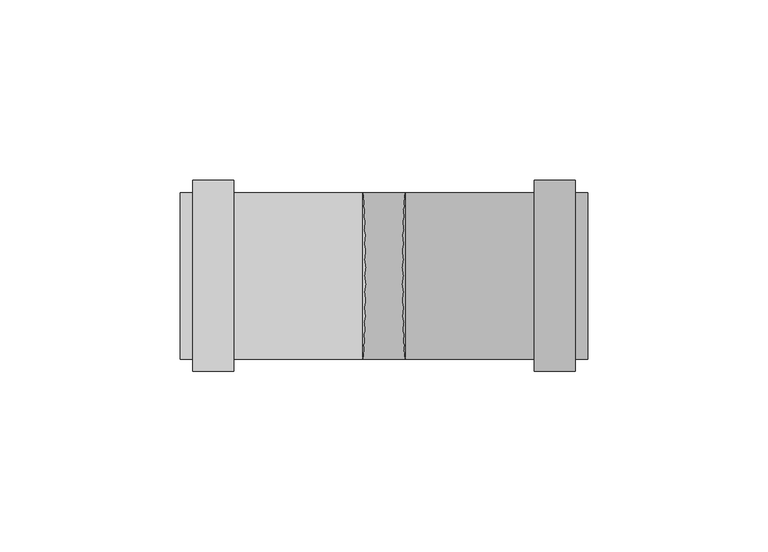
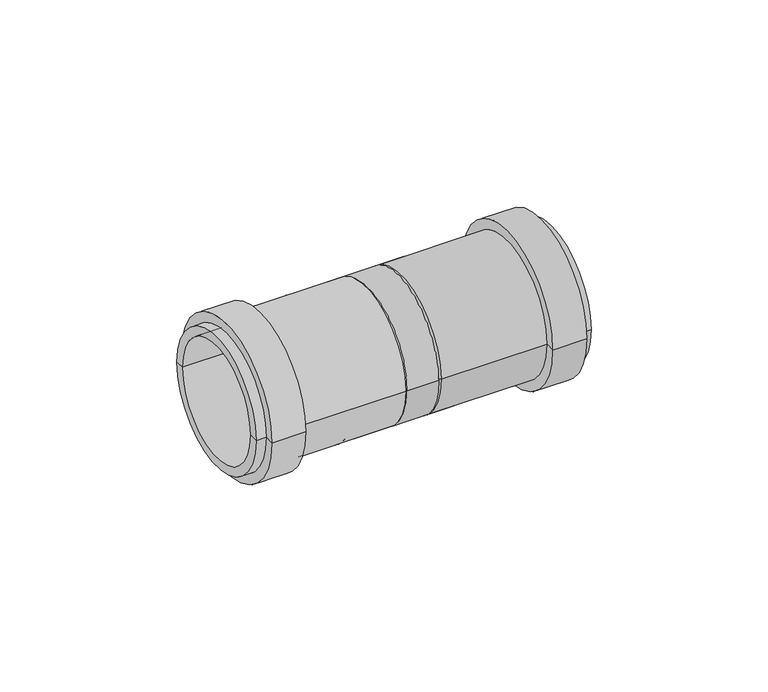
"""IFC4 building model written with IfcOpenShell, lengths in millimetres: pipe fitting geometry, pf_HTU : pf_HTU."""

from ifc_helpers import new_model, si_unit, point, frame, origin, origin_2d, place, context, project, spatial, polyline, circle_curve, trimmed, segment, composite_curve, outline, extrude, source, transform, mapped, element, save
from ifc_brep_helpers import plane_surface, cylinder_surface, revolved_surface, advanced_brep


def pipe_fitting_059f0d56(model_context):
    return source(origin(), model_context, "Body", "SolidModel", [
        advanced_brep(
        [(6.5, -20.0, 0.0), (6.5, 20.0, 0.0), (10.9, 23.1, 0.0), (10.9, -23.1, 0.0), (6.5, 0.0, 0.0), (61.5, -23.1, 0.0), (61.5, 23.1, 0.0), (61.5, 20.0, 0.0), (61.5, -20.0, 0.0), (58.1, -23.1, 0.0), (58.1, 23.1, 0.0), (58.1, -26.5, 0.0), (58.1, 26.5, 0.0), (46.7, -26.5, 0.0), (46.7, 26.5, 0.0), (46.7, -23.1, 0.0), (46.7, 23.1, 0.0), (10.9, -20.0, 0.0), (10.9, 20.0, 0.0), (10.9, 0.0, 0.0)],
        [
            (0, 1, circle_curve(frame((6.5, 0.0, 0.0), z_axis=(1.0, 0.0, 0.0), x_axis=(0.0, 1.0, 0.0)), 20.0)),
            (1, 2),
            (2, 3, circle_curve(frame((10.9, 0.0, 0.0), z_axis=(-1.0, 0.0, 0.0), x_axis=(0.0, 1.0, 0.0)), 23.1)),
            (3, 0),
            (1, 0, circle_curve(frame((6.5, 0.0, 0.0), z_axis=(1.0, 0.0, 0.0), x_axis=(0.0, 1.0, 0.0)), 20.0)),
            (3, 2, circle_curve(frame((10.9, 0.0, 0.0), z_axis=(-1.0, 0.0, 0.0), x_axis=(0.0, 1.0, 0.0)), 23.1)),
            (4, 1),
            (0, 4),
            (5, 6, circle_curve(frame((61.5, 0.0, 0.0), z_axis=(1.0, 0.0, 0.0), x_axis=(0.0, 1.0, 0.0)), 23.1)),
            (6, 7),
            (7, 8, circle_curve(frame((61.5, 0.0, 0.0), z_axis=(-1.0, 0.0, 0.0), x_axis=(0.0, 1.0, 0.0)), 20.0)),
            (8, 5),
            (6, 5, circle_curve(frame((61.5, 0.0, 0.0), z_axis=(1.0, 0.0, 0.0), x_axis=(0.0, 1.0, 0.0)), 23.1)),
            (8, 7, circle_curve(frame((61.5, 0.0, 0.0), z_axis=(-1.0, 0.0, 0.0), x_axis=(0.0, 1.0, 0.0)), 20.0)),
            (9, 10, circle_curve(frame((58.1, 0.0, 0.0), z_axis=(1.0, 0.0, 0.0), x_axis=(0.0, 1.0, 0.0)), 23.1)),
            (10, 6),
            (5, 9),
            (10, 9, circle_curve(frame((58.1, 0.0, 0.0), z_axis=(1.0, 0.0, 0.0), x_axis=(0.0, 1.0, 0.0)), 23.1)),
            (11, 12, circle_curve(frame((58.1, 0.0, 0.0), z_axis=(1.0, 0.0, 0.0), x_axis=(0.0, 1.0, 0.0)), 26.5)),
            (12, 10),
            (9, 11),
            (12, 11, circle_curve(frame((58.1, 0.0, 0.0), z_axis=(1.0, 0.0, 0.0), x_axis=(0.0, 1.0, 0.0)), 26.5)),
            (13, 14, circle_curve(frame((46.7, 0.0, 0.0), z_axis=(1.0, 0.0, 0.0), x_axis=(0.0, 1.0, 0.0)), 26.5)),
            (14, 12),
            (11, 13),
            (14, 13, circle_curve(frame((46.7, 0.0, 0.0), z_axis=(1.0, 0.0, 0.0), x_axis=(0.0, 1.0, 0.0)), 26.5)),
            (15, 16, circle_curve(frame((46.7, 0.0, 0.0), z_axis=(1.0, 0.0, 0.0), x_axis=(0.0, 1.0, 0.0)), 23.1)),
            (16, 14),
            (13, 15),
            (16, 15, circle_curve(frame((46.7, 0.0, 0.0), z_axis=(1.0, 0.0, 0.0), x_axis=(0.0, 1.0, 0.0)), 23.1)),
            (2, 16),
            (15, 3),
            (17, 18, circle_curve(frame((10.9, 0.0, 0.0), z_axis=(1.0, 0.0, 0.0), x_axis=(0.0, 1.0, 0.0)), 20.0)),
            (18, 19),
            (19, 17),
            (18, 17, circle_curve(frame((10.9, 0.0, 0.0), z_axis=(1.0, 0.0, 0.0), x_axis=(0.0, 1.0, 0.0)), 20.0)),
            (7, 18),
            (17, 8),
        ],
        [
            revolved_surface(polyline([(10.9, 23.1, 0.0), (6.5, 20.0, 0.0)]), (6.5, 0.0, 0.0), (-1.0, 0.0, 0.0)),
            plane_surface(frame((6.5, 0.0, 0.0), z_axis=(-1.0, 0.0, 0.0), x_axis=(0.0, 1.0, 0.0))),
            plane_surface(frame((61.5, 0.0, 0.0), z_axis=(1.0, 0.0, 0.0), x_axis=(0.0, 1.0, 0.0))),
            cylinder_surface(frame((6.5, 0.0, 0.0), z_axis=(-1.0, 0.0, 0.0), x_axis=(0.0, 1.0, 0.0)), 23.1),
            plane_surface(frame((58.1, 0.0, 0.0), z_axis=(1.0, 0.0, 0.0), x_axis=(0.0, 1.0, 0.0))),
            cylinder_surface(frame((6.5, 0.0, 0.0), z_axis=(-1.0, 0.0, 0.0), x_axis=(0.0, 1.0, 0.0)), 26.5),
            plane_surface(frame((46.7, 0.0, 0.0), z_axis=(-1.0, 0.0, 0.0), x_axis=(0.0, 1.0, 0.0))),
            plane_surface(frame((10.9, 0.0, 0.0), z_axis=(1.0, 0.0, 0.0), x_axis=(0.0, 1.0, 0.0))),
            revolved_surface(polyline([(10.9, 20.0, 0.0), (61.5, 20.0, 0.0)]), (6.5, 0.0, 0.0), (-1.0, 0.0, 0.0)),
        ],
        [
            (0, [[1, 2, 3, 4]]),
            (0, [[5, -4, 6, -2]]),
            (1, [[7, -1, 8]]),
            (1, [[-8, -5, -7]]),
            (2, [[9, 10, 11, 12]]),
            (2, [[13, -12, 14, -10]]),
            (3, [[15, 16, -9, 17]]),
            (3, [[18, -17, -13, -16]]),
            (4, [[19, 20, -15, 21]]),
            (4, [[22, -21, -18, -20]]),
            (5, [[23, 24, -19, 25]]),
            (5, [[26, -25, -22, -24]]),
            (6, [[27, 28, -23, 29]]),
            (6, [[30, -29, -26, -28]]),
            (3, [[-3, 31, -27, 32]]),
            (3, [[-6, -32, -30, -31]]),
            (7, [[33, 34, 35]]),
            (7, [[36, -35, -34]]),
            (8, [[-11, 37, -33, 38]]),
            (8, [[-14, -38, -36, -37]]),
        ],
    ),
        advanced_brep(
        [(3.5, 20.0, 0.0), (3.5, -20.0, 0.0), (-0.9, -23.1, 0.0), (-0.9, 23.1, 0.0), (3.5, 0.0, 0.0), (-51.5, 23.1, 0.0), (-51.5, -23.1, 0.0), (-51.5, -20.0, 0.0), (-51.5, 20.0, 0.0), (-48.1, 23.1, 0.0), (-48.1, -23.1, 0.0), (-48.1, 26.5, 0.0), (-48.1, -26.5, 0.0), (-36.7, 26.5, 0.0), (-36.7, -26.5, 0.0), (-36.7, 23.1, 0.0), (-36.7, -23.1, 0.0), (-0.9, 20.0, 0.0), (-0.9, -20.0, 0.0), (-0.9, 0.0, 0.0)],
        [
            (0, 1, circle_curve(frame((3.5, 0.0, 0.0), z_axis=(-1.0, 0.0, 0.0), x_axis=(0.0, -1.0, 0.0)), 20.0)),
            (1, 2),
            (2, 3, circle_curve(frame((-0.9, 0.0, 0.0), z_axis=(1.0, 0.0, 0.0), x_axis=(0.0, -1.0, 0.0)), 23.1)),
            (3, 0),
            (1, 0, circle_curve(frame((3.5, 0.0, 0.0), z_axis=(-1.0, 0.0, 0.0), x_axis=(0.0, -1.0, 0.0)), 20.0)),
            (3, 2, circle_curve(frame((-0.9, 0.0, 0.0), z_axis=(1.0, 0.0, 0.0), x_axis=(0.0, -1.0, 0.0)), 23.1)),
            (4, 1),
            (0, 4),
            (5, 6, circle_curve(frame((-51.5, 0.0, 0.0), z_axis=(-1.0, 0.0, 0.0), x_axis=(0.0, -1.0, 0.0)), 23.1)),
            (6, 7),
            (7, 8, circle_curve(frame((-51.5, 0.0, 0.0), z_axis=(1.0, 0.0, 0.0), x_axis=(0.0, -1.0, 0.0)), 20.0)),
            (8, 5),
            (6, 5, circle_curve(frame((-51.5, 0.0, 0.0), z_axis=(-1.0, 0.0, 0.0), x_axis=(0.0, -1.0, 0.0)), 23.1)),
            (8, 7, circle_curve(frame((-51.5, 0.0, 0.0), z_axis=(1.0, 0.0, 0.0), x_axis=(0.0, -1.0, 0.0)), 20.0)),
            (9, 10, circle_curve(frame((-48.1, 0.0, 0.0), z_axis=(-1.0, 0.0, 0.0), x_axis=(0.0, -1.0, 0.0)), 23.1)),
            (10, 6),
            (5, 9),
            (10, 9, circle_curve(frame((-48.1, 0.0, 0.0), z_axis=(-1.0, 0.0, 0.0), x_axis=(0.0, -1.0, 0.0)), 23.1)),
            (11, 12, circle_curve(frame((-48.1, 0.0, 0.0), z_axis=(-1.0, 0.0, 0.0), x_axis=(0.0, -1.0, 0.0)), 26.5)),
            (12, 10),
            (9, 11),
            (12, 11, circle_curve(frame((-48.1, 0.0, 0.0), z_axis=(-1.0, 0.0, 0.0), x_axis=(0.0, -1.0, 0.0)), 26.5)),
            (13, 14, circle_curve(frame((-36.7, 0.0, 0.0), z_axis=(-1.0, 0.0, 0.0), x_axis=(0.0, -1.0, 0.0)), 26.5)),
            (14, 12),
            (11, 13),
            (14, 13, circle_curve(frame((-36.7, 0.0, 0.0), z_axis=(-1.0, 0.0, 0.0), x_axis=(0.0, -1.0, 0.0)), 26.5)),
            (15, 16, circle_curve(frame((-36.7, 0.0, 0.0), z_axis=(-1.0, 0.0, 0.0), x_axis=(0.0, -1.0, 0.0)), 23.1)),
            (16, 14),
            (13, 15),
            (16, 15, circle_curve(frame((-36.7, 0.0, 0.0), z_axis=(-1.0, 0.0, 0.0), x_axis=(0.0, -1.0, 0.0)), 23.1)),
            (2, 16),
            (15, 3),
            (17, 18, circle_curve(frame((-0.9, 0.0, 0.0), z_axis=(-1.0, 0.0, 0.0), x_axis=(0.0, -1.0, 0.0)), 20.0)),
            (18, 19),
            (19, 17),
            (18, 17, circle_curve(frame((-0.9, 0.0, 0.0), z_axis=(-1.0, 0.0, 0.0), x_axis=(0.0, -1.0, 0.0)), 20.0)),
            (7, 18),
            (17, 8),
        ],
        [
            revolved_surface(polyline([(-0.9, -23.1, 0.0), (3.5, -20.0, 0.0)]), (3.5, 0.0, 0.0), (1.0, 0.0, 0.0)),
            plane_surface(frame((3.5, 0.0, 0.0), z_axis=(1.0, 0.0, 0.0), x_axis=(0.0, -1.0, 0.0))),
            plane_surface(frame((-51.5, 0.0, 0.0), z_axis=(-1.0, 0.0, 0.0), x_axis=(0.0, -1.0, 0.0))),
            cylinder_surface(frame((3.5, 0.0, 0.0), z_axis=(1.0, 0.0, 0.0), x_axis=(0.0, -1.0, 0.0)), 23.1),
            plane_surface(frame((-48.1, 0.0, 0.0), z_axis=(-1.0, 0.0, 0.0), x_axis=(0.0, -1.0, 0.0))),
            cylinder_surface(frame((3.5, 0.0, 0.0), z_axis=(1.0, 0.0, 0.0), x_axis=(0.0, -1.0, 0.0)), 26.5),
            plane_surface(frame((-36.7, 0.0, 0.0), z_axis=(1.0, 0.0, 0.0), x_axis=(0.0, -1.0, 0.0))),
            plane_surface(frame((-0.9, 0.0, 0.0), z_axis=(-1.0, 0.0, 0.0), x_axis=(0.0, -1.0, 0.0))),
            revolved_surface(polyline([(-0.9000000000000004, -20.0, 0.0), (-51.5, -20.0, 0.0)]), (3.5, 0.0, 0.0), (1.0, 0.0, 0.0)),
        ],
        [
            (0, [[1, 2, 3, 4]]),
            (0, [[5, -4, 6, -2]]),
            (1, [[7, -1, 8]]),
            (1, [[-8, -5, -7]]),
            (2, [[9, 10, 11, 12]]),
            (2, [[13, -12, 14, -10]]),
            (3, [[15, 16, -9, 17]]),
            (3, [[18, -17, -13, -16]]),
            (4, [[19, 20, -15, 21]]),
            (4, [[22, -21, -18, -20]]),
            (5, [[23, 24, -19, 25]]),
            (5, [[26, -25, -22, -24]]),
            (6, [[27, 28, -23, 29]]),
            (6, [[30, -29, -26, -28]]),
            (3, [[-3, 31, -27, 32]]),
            (3, [[-6, -32, -30, -31]]),
            (7, [[33, 34, 35]]),
            (7, [[36, -35, -34]]),
            (8, [[-11, 37, -33, 38]]),
            (8, [[-14, -38, -36, -37]]),
        ],
    ),
        extrude(outline(composite_curve([segment(trimmed(circle_curve(origin_2d(), 23.1), [point((-23.1, 0.0))], [point((23.1, 0.0))], False, "CARTESIAN"), True, "CONTINUOUS"), segment(trimmed(circle_curve(origin_2d(), 23.1), [point((23.1, 0.0))], [point((-23.1, 0.0))], False, "CARTESIAN"), True, "CONTINUOUS")], self_intersect=False)), frame((-19.2389226, 0.0, 0.0), z_axis=(1.0, 0.0, 0.0), x_axis=(0.0, 1.0, 0.0)), (0.0, 0.0, 1.0), 38.4778452),
    ])


if __name__ == "__main__":
    model = new_model("IFC4")
    model_context = context("Model", 3, world=origin())
    ifc_project = project(units=[si_unit("LENGTHUNIT", "METRE", prefix="MILLI")], contexts=[model_context])
    site = spatial("IfcSite", under=ifc_project)
    building = spatial("IfcBuilding", under=site)
    placement = place(None, origin())
    pipe_fitting_shape = pipe_fitting_059f0d56(model_context)
    element("IfcPipeFitting", 1, ObjectType="pf_HTU : pf_HTU", at=placement, inside=building, context=model_context, shape_type="MappedRepresentation", body=[
        mapped(pipe_fitting_shape, transform((0.0, 0.0, 0.0), x_axis=(1.0, 0.0, 0.0), y_axis=(0.0, 1.0, 0.0), z_axis=(0.0, 0.0, 1.0))),
    ])
    save(model, "model.ifc")
